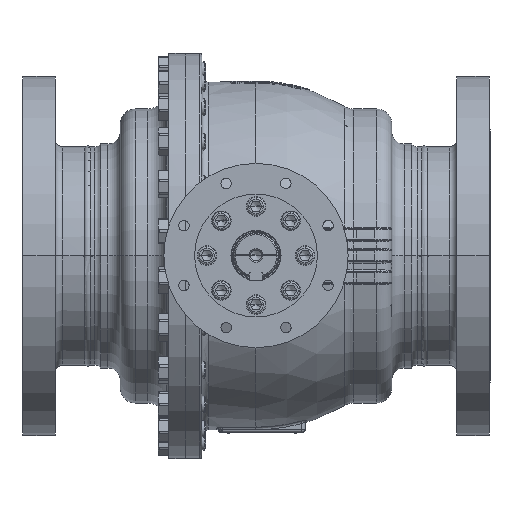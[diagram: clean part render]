
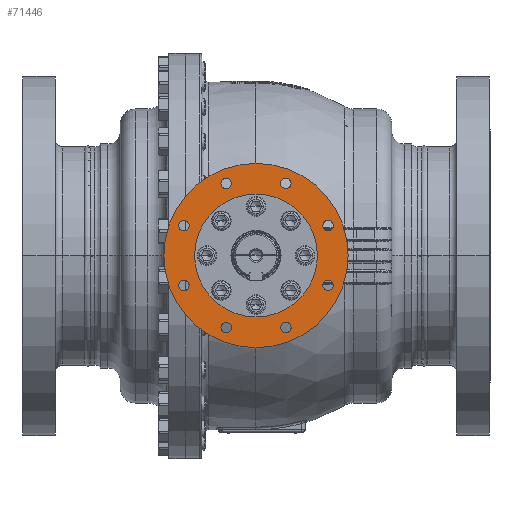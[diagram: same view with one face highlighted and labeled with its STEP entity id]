
A CAD part, top view. The second image highlights one B-rep face of the part: STEP entity #71446.
In plain terms, the highlighted planar face has unit normal (0, 0, 1).
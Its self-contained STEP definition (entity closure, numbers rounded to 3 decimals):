
#3854=CARTESIAN_POINT('',(0.,0.,440.));
#3855=DIRECTION('',(0.,0.,1.));
#3856=DIRECTION('',(1.,0.,0.));
#3857=AXIS2_PLACEMENT_3D('',#3854,#3855,#3856);
#3859=CARTESIAN_POINT('',(0.,0.,440.));
#3860=DIRECTION('',(0.,0.,-1.));
#3861=DIRECTION('',(1.,0.,0.));
#3862=AXIS2_PLACEMENT_3D('',#3859,#3860,#3861);
#3864=CARTESIAN_POINT('',(-117.333,48.601,440.));
#3865=DIRECTION('',(0.,0.,-1.));
#3866=DIRECTION('',(-1.,0.,0.));
#3867=AXIS2_PLACEMENT_3D('',#3864,#3865,#3866);
#3869=CARTESIAN_POINT('',(-117.333,48.601,440.));
#3870=DIRECTION('',(0.,0.,-1.));
#3871=DIRECTION('',(1.,0.,0.));
#3872=AXIS2_PLACEMENT_3D('',#3869,#3870,#3871);
#3874=CARTESIAN_POINT('',(-48.601,117.333,440.));
#3875=DIRECTION('',(0.,0.,-1.));
#3876=DIRECTION('',(-0.707,0.707,0.));
#3877=AXIS2_PLACEMENT_3D('',#3874,#3875,#3876);
#3879=CARTESIAN_POINT('',(-48.601,117.333,440.));
#3880=DIRECTION('',(0.,0.,-1.));
#3881=DIRECTION('',(0.707,-0.707,0.));
#3882=AXIS2_PLACEMENT_3D('',#3879,#3880,#3881);
#3884=CARTESIAN_POINT('',(48.601,117.333,440.));
#3885=DIRECTION('',(0.,0.,-1.));
#3886=DIRECTION('',(0.,1.,0.));
#3887=AXIS2_PLACEMENT_3D('',#3884,#3885,#3886);
#3889=CARTESIAN_POINT('',(48.601,117.333,440.));
#3890=DIRECTION('',(0.,0.,-1.));
#3891=DIRECTION('',(0.,-1.,0.));
#3892=AXIS2_PLACEMENT_3D('',#3889,#3890,#3891);
#3894=CARTESIAN_POINT('',(117.333,48.601,440.));
#3895=DIRECTION('',(0.,0.,-1.));
#3896=DIRECTION('',(0.707,0.707,0.));
#3897=AXIS2_PLACEMENT_3D('',#3894,#3895,#3896);
#3899=CARTESIAN_POINT('',(117.333,48.601,440.));
#3900=DIRECTION('',(0.,0.,-1.));
#3901=DIRECTION('',(-0.707,-0.707,0.));
#3902=AXIS2_PLACEMENT_3D('',#3899,#3900,#3901);
#3904=CARTESIAN_POINT('',(117.333,-48.601,440.));
#3905=DIRECTION('',(0.,0.,-1.));
#3906=DIRECTION('',(1.,0.,0.));
#3907=AXIS2_PLACEMENT_3D('',#3904,#3905,#3906);
#3909=CARTESIAN_POINT('',(117.333,-48.601,440.));
#3910=DIRECTION('',(0.,0.,-1.));
#3911=DIRECTION('',(-1.,0.,0.));
#3912=AXIS2_PLACEMENT_3D('',#3909,#3910,#3911);
#3914=CARTESIAN_POINT('',(48.601,-117.333,440.));
#3915=DIRECTION('',(0.,0.,-1.));
#3916=DIRECTION('',(0.707,-0.707,0.));
#3917=AXIS2_PLACEMENT_3D('',#3914,#3915,#3916);
#3919=CARTESIAN_POINT('',(48.601,-117.333,440.));
#3920=DIRECTION('',(0.,0.,-1.));
#3921=DIRECTION('',(-0.707,0.707,0.));
#3922=AXIS2_PLACEMENT_3D('',#3919,#3920,#3921);
#3924=CARTESIAN_POINT('',(-48.601,-117.333,440.));
#3925=DIRECTION('',(0.,0.,-1.));
#3926=DIRECTION('',(0.,-1.,0.));
#3927=AXIS2_PLACEMENT_3D('',#3924,#3925,#3926);
#3929=CARTESIAN_POINT('',(-48.601,-117.333,440.));
#3930=DIRECTION('',(0.,0.,-1.));
#3931=DIRECTION('',(0.,1.,0.));
#3932=AXIS2_PLACEMENT_3D('',#3929,#3930,#3931);
#3934=CARTESIAN_POINT('',(-117.333,-48.601,440.));
#3935=DIRECTION('',(0.,0.,-1.));
#3936=DIRECTION('',(-0.707,-0.707,0.));
#3937=AXIS2_PLACEMENT_3D('',#3934,#3935,#3936);
#3939=CARTESIAN_POINT('',(-117.333,-48.601,440.));
#3940=DIRECTION('',(0.,0.,-1.));
#3941=DIRECTION('',(0.707,0.707,0.));
#3942=AXIS2_PLACEMENT_3D('',#3939,#3940,#3941);
#3948=CARTESIAN_POINT('',(0.,0.,440.));
#3949=DIRECTION('',(0.,0.,-1.));
#3950=DIRECTION('',(1.,0.,0.));
#3951=AXIS2_PLACEMENT_3D('',#3948,#3949,#3950);
#3957=CARTESIAN_POINT('',(0.,0.,440.));
#3958=DIRECTION('',(0.,0.,1.));
#3959=DIRECTION('',(1.,0.,0.));
#3960=AXIS2_PLACEMENT_3D('',#3957,#3958,#3959);
#66475=CARTESIAN_POINT('',(100.,0.,440.));
#66477=VERTEX_POINT('',#66475);
#66479=CARTESIAN_POINT('',(-100.,0.,440.));
#66481=VERTEX_POINT('',#66479);
#66551=CARTESIAN_POINT('',(-125.833,48.601,440.));
#66552=CARTESIAN_POINT('',(-108.833,48.601,440.));
#66553=VERTEX_POINT('',#66551);
#66554=VERTEX_POINT('',#66552);
#66557=CARTESIAN_POINT('',(-54.611,123.343,440.));
#66558=CARTESIAN_POINT('',(-42.59,111.322,440.));
#66559=VERTEX_POINT('',#66557);
#66560=VERTEX_POINT('',#66558);
#66563=CARTESIAN_POINT('',(48.601,125.833,440.));
#66564=CARTESIAN_POINT('',(48.601,108.833,440.));
#66565=VERTEX_POINT('',#66563);
#66566=VERTEX_POINT('',#66564);
#66569=CARTESIAN_POINT('',(123.343,54.611,440.));
#66570=CARTESIAN_POINT('',(111.322,42.59,440.));
#66571=VERTEX_POINT('',#66569);
#66572=VERTEX_POINT('',#66570);
#66584=CARTESIAN_POINT('',(150.,0.,440.));
#66586=VERTEX_POINT('',#66584);
#66588=CARTESIAN_POINT('',(-150.,0.,440.));
#66590=VERTEX_POINT('',#66588);
#66599=CARTESIAN_POINT('',(125.833,-48.601,440.));
#66600=CARTESIAN_POINT('',(108.833,-48.601,440.));
#66601=VERTEX_POINT('',#66599);
#66602=VERTEX_POINT('',#66600);
#66607=CARTESIAN_POINT('',(54.611,-123.343,440.));
#66608=CARTESIAN_POINT('',(42.59,-111.322,440.));
#66609=VERTEX_POINT('',#66607);
#66610=VERTEX_POINT('',#66608);
#66615=CARTESIAN_POINT('',(-48.601,-125.833,440.));
#66616=CARTESIAN_POINT('',(-48.601,-108.833,440.));
#66617=VERTEX_POINT('',#66615);
#66618=VERTEX_POINT('',#66616);
#66623=CARTESIAN_POINT('',(-123.343,-54.611,440.));
#66624=CARTESIAN_POINT('',(-111.322,-42.59,440.));
#66625=VERTEX_POINT('',#66623);
#66626=VERTEX_POINT('',#66624);
#71383=CARTESIAN_POINT('',(0.,0.,440.));
#71384=DIRECTION('',(0.,0.,1.));
#71385=DIRECTION('',(1.,0.,0.));
#71386=AXIS2_PLACEMENT_3D('',#71383,#71384,#71385);
#71387=PLANE('',#71386);
#71388=ORIENTED_EDGE('',*,*,#71376,.F.);
#71389=ORIENTED_EDGE('',*,*,#71365,.T.);
#71390=EDGE_LOOP('',(#71388,#71389));
#71391=FACE_OUTER_BOUND('',#71390,.F.);
#71393=ORIENTED_EDGE('',*,*,#71392,.F.);
#71395=ORIENTED_EDGE('',*,*,#71394,.T.);
#71396=EDGE_LOOP('',(#71393,#71395));
#71397=FACE_BOUND('',#71396,.F.);
#71399=ORIENTED_EDGE('',*,*,#71398,.F.);
#71401=ORIENTED_EDGE('',*,*,#71400,.F.);
#71402=EDGE_LOOP('',(#71399,#71401));
#71403=FACE_BOUND('',#71402,.F.);
#71405=ORIENTED_EDGE('',*,*,#71404,.F.);
#71407=ORIENTED_EDGE('',*,*,#71406,.F.);
#71408=EDGE_LOOP('',(#71405,#71407));
#71409=FACE_BOUND('',#71408,.F.);
#71411=ORIENTED_EDGE('',*,*,#71410,.F.);
#71413=ORIENTED_EDGE('',*,*,#71412,.F.);
#71414=EDGE_LOOP('',(#71411,#71413));
#71415=FACE_BOUND('',#71414,.F.);
#71417=ORIENTED_EDGE('',*,*,#71416,.F.);
#71419=ORIENTED_EDGE('',*,*,#71418,.F.);
#71420=EDGE_LOOP('',(#71417,#71419));
#71421=FACE_BOUND('',#71420,.F.);
#71423=ORIENTED_EDGE('',*,*,#71422,.F.);
#71425=ORIENTED_EDGE('',*,*,#71424,.F.);
#71426=EDGE_LOOP('',(#71423,#71425));
#71427=FACE_BOUND('',#71426,.F.);
#71429=ORIENTED_EDGE('',*,*,#71428,.F.);
#71431=ORIENTED_EDGE('',*,*,#71430,.F.);
#71432=EDGE_LOOP('',(#71429,#71431));
#71433=FACE_BOUND('',#71432,.F.);
#71435=ORIENTED_EDGE('',*,*,#71434,.F.);
#71437=ORIENTED_EDGE('',*,*,#71436,.F.);
#71438=EDGE_LOOP('',(#71435,#71437));
#71439=FACE_BOUND('',#71438,.F.);
#71441=ORIENTED_EDGE('',*,*,#71440,.F.);
#71443=ORIENTED_EDGE('',*,*,#71442,.F.);
#71444=EDGE_LOOP('',(#71441,#71443));
#71445=FACE_BOUND('',#71444,.F.);
#71446=ADVANCED_FACE('',(#71391,#71397,#71403,#71409,#71415,#71421,#71427,
#71433,#71439,#71445),#71387,.T.);
#3858=CIRCLE('',#3857,150.);
#3863=CIRCLE('',#3862,150.);
#3868=CIRCLE('',#3867,8.5);
#3873=CIRCLE('',#3872,8.5);
#3878=CIRCLE('',#3877,8.5);
#3883=CIRCLE('',#3882,8.5);
#3888=CIRCLE('',#3887,8.5);
#3893=CIRCLE('',#3892,8.5);
#3898=CIRCLE('',#3897,8.5);
#3903=CIRCLE('',#3902,8.5);
#3908=CIRCLE('',#3907,8.5);
#3913=CIRCLE('',#3912,8.5);
#3918=CIRCLE('',#3917,8.5);
#3923=CIRCLE('',#3922,8.5);
#3928=CIRCLE('',#3927,8.5);
#3933=CIRCLE('',#3932,8.5);
#3938=CIRCLE('',#3937,8.5);
#3943=CIRCLE('',#3942,8.5);
#3952=CIRCLE('',#3951,100.);
#3961=CIRCLE('',#3960,100.);
#71365=EDGE_CURVE('',#66586,#66590,#3863,.T.);
#71376=EDGE_CURVE('',#66586,#66590,#3858,.T.);
#71392=EDGE_CURVE('',#66477,#66481,#3952,.T.);
#71394=EDGE_CURVE('',#66477,#66481,#3961,.T.);
#71398=EDGE_CURVE('',#66553,#66554,#3868,.T.);
#71400=EDGE_CURVE('',#66554,#66553,#3873,.T.);
#71404=EDGE_CURVE('',#66559,#66560,#3878,.T.);
#71406=EDGE_CURVE('',#66560,#66559,#3883,.T.);
#71410=EDGE_CURVE('',#66565,#66566,#3888,.T.);
#71412=EDGE_CURVE('',#66566,#66565,#3893,.T.);
#71416=EDGE_CURVE('',#66571,#66572,#3898,.T.);
#71418=EDGE_CURVE('',#66572,#66571,#3903,.T.);
#71422=EDGE_CURVE('',#66601,#66602,#3908,.T.);
#71424=EDGE_CURVE('',#66602,#66601,#3913,.T.);
#71428=EDGE_CURVE('',#66609,#66610,#3918,.T.);
#71430=EDGE_CURVE('',#66610,#66609,#3923,.T.);
#71434=EDGE_CURVE('',#66617,#66618,#3928,.T.);
#71436=EDGE_CURVE('',#66618,#66617,#3933,.T.);
#71440=EDGE_CURVE('',#66625,#66626,#3938,.T.);
#71442=EDGE_CURVE('',#66626,#66625,#3943,.T.);
